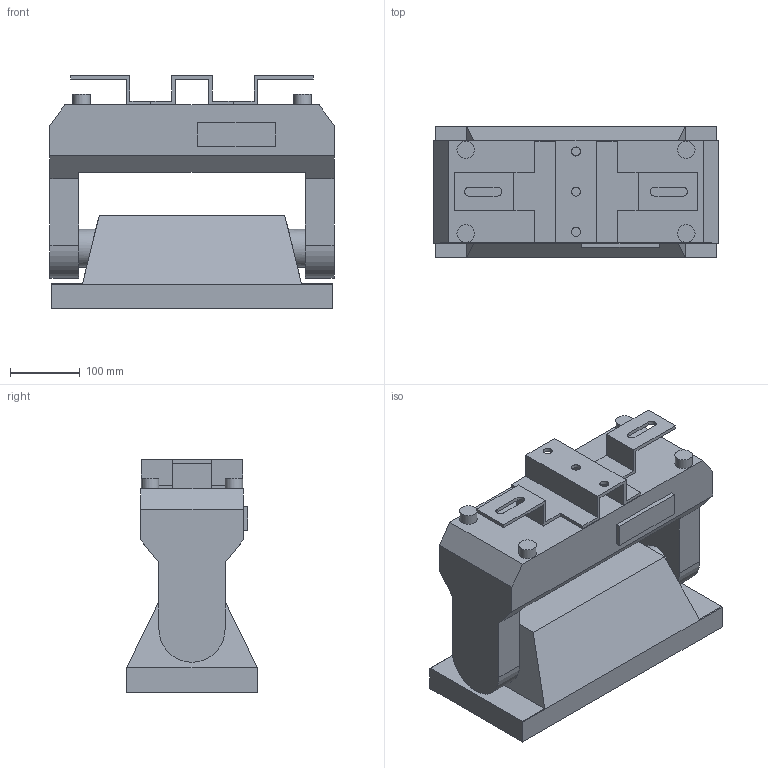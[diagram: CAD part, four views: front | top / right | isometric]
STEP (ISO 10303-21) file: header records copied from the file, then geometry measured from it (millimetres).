
FILE_DESCRIPTION(/* description */ (''),/* implementation_level */ '2;1');
FILE_NAME(/* name */ 'C:\Users\dgooch\Documents\!!CADENG\PRO\Color Strike M\Color Strike M_3D_CAD\Color Strike M_0.step',/* time_stamp */ '2022-07-19T15:41:25-04:00',/* author */ ('dgooch'),/* organization */ (''),/* preprocessor_version */ 'ST-DEVELOPER v19',/* originating_system */ 'Autodesk Inventor 2023',/* authorisation */ '');
FILE_SCHEMA (('AUTOMOTIVE_DESIGN { 1 0 10303 214 3 1 1 }'));
Length unit declared in the file: millimetre
Products named in the file (5): Color Strike M_0; Base (1); Head (1); Bracket (1); CH-CST2000IPC0002 (1)
Assembly tree (4 placements, depth 3):
  Color Strike M_0
    Base (1)
    Head (1)
    Bracket (1)
      CH-CST2000IPC0002 (1)
Bounding box: 407 x 187.9 x 333.7 mm (x, y, z)
Volume: 13652019.4 mm3; surface area: 646239.9 mm2
Topology: 3 solids, 3 shells, 97 faces, 243 edges, 162 vertices
Faces by surface type: plane 80, cylinder 17
Full cylindrical faces by diameter (mm): 13 x3, 25 x4, 54 x4
Entity records: 3089 total; most frequent: CARTESIAN_POINT 511, DIRECTION 489, ORIENTED_EDGE 486, EDGE_CURVE 243, LINE 209, VECTOR 209, VERTEX_POINT 162, AXIS2_PLACEMENT_3D 140
